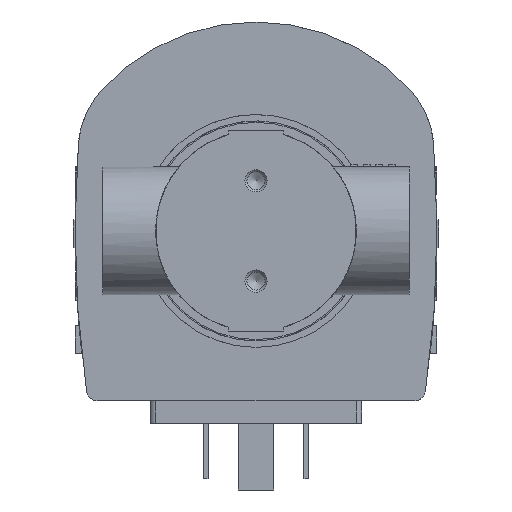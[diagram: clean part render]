
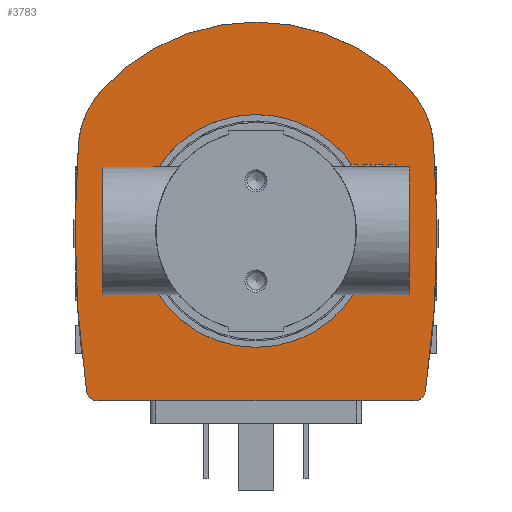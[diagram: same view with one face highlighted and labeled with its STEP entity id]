
A CAD part, front view. The second image highlights one B-rep face of the part: STEP entity #3783.
In plain terms, the highlighted planar face has unit normal (0, -1, 0).
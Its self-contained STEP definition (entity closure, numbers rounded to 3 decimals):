
#128=PLANE('',#4069);
#311=LINE('',#5409,#534);
#534=VECTOR('',#4557,1000.);
#1062=ORIENTED_EDGE('',*,*,#1622,.F.);
#1063=ORIENTED_EDGE('',*,*,#1606,.F.);
#1064=ORIENTED_EDGE('',*,*,#1621,.F.);
#1065=ORIENTED_EDGE('',*,*,#1626,.F.);
#1066=ORIENTED_EDGE('',*,*,#1616,.F.);
#1067=ORIENTED_EDGE('',*,*,#1587,.F.);
#1068=ORIENTED_EDGE('',*,*,#1623,.F.);
#1069=ORIENTED_EDGE('',*,*,#1564,.F.);
#1564=EDGE_CURVE('',#1888,#1889,#311,.T.);
#1587=EDGE_CURVE('',#1908,#1909,#2066,.T.);
#1606=EDGE_CURVE('',#1926,#1927,#2071,.T.);
#1616=EDGE_CURVE('',#1909,#1936,#2074,.T.);
#1621=EDGE_CURVE('',#1939,#1926,#2075,.T.);
#1622=EDGE_CURVE('',#1927,#1888,#2076,.T.);
#1623=EDGE_CURVE('',#1889,#1908,#2077,.T.);
#1626=EDGE_CURVE('',#1936,#1939,#2078,.T.);
#1888=VERTEX_POINT('',#5408);
#1889=VERTEX_POINT('',#5410);
#1908=VERTEX_POINT('',#5454);
#1909=VERTEX_POINT('',#5456);
#1926=VERTEX_POINT('',#5492);
#1927=VERTEX_POINT('',#5494);
#1936=VERTEX_POINT('',#5514);
#1939=VERTEX_POINT('',#5522);
#2066=CIRCLE('',#4039,200.1);
#2071=CIRCLE('',#4049,200.1);
#2074=CIRCLE('',#4055,16.);
#2075=CIRCLE('',#4059,16.);
#2076=CIRCLE('',#4061,2.);
#2077=CIRCLE('',#4063,2.);
#2078=CIRCLE('',#4068,37.5);
#2216=EDGE_LOOP('',(#1062,#1063,#1064,#1065,#1066,#1067,#1068,#1069));
#2430=FACE_BOUND('',#2216,.T.);
#3783=ADVANCED_FACE('',(#2430),#128,.F.);
#4039=AXIS2_PLACEMENT_3D('',#5455,#4598,#4599);
#4049=AXIS2_PLACEMENT_3D('',#5493,#4628,#4629);
#4055=AXIS2_PLACEMENT_3D('',#5513,#4645,#4646);
#4059=AXIS2_PLACEMENT_3D('',#5523,#4655,#4656);
#4061=AXIS2_PLACEMENT_3D('',#5525,#4659,#4660);
#4063=AXIS2_PLACEMENT_3D('',#5527,#4663,#4664);
#4068=AXIS2_PLACEMENT_3D('',#5532,#4673,#4674);
#4069=AXIS2_PLACEMENT_3D('',#5533,#4675,#4676);
#4557=DIRECTION('',(0.,0.,1.));
#4598=DIRECTION('',(0.,1.,0.));
#4599=DIRECTION('',(1.,0.,0.));
#4628=DIRECTION('',(0.,1.,0.));
#4629=DIRECTION('',(1.,0.,0.));
#4645=DIRECTION('',(0.,1.,0.));
#4646=DIRECTION('',(1.,0.,0.));
#4655=DIRECTION('',(0.,1.,0.));
#4656=DIRECTION('',(1.,0.,0.));
#4659=DIRECTION('',(0.,1.,0.));
#4660=DIRECTION('',(1.,0.,0.));
#4663=DIRECTION('',(0.,1.,0.));
#4664=DIRECTION('',(1.,0.,0.));
#4673=DIRECTION('',(0.,1.,0.));
#4674=DIRECTION('',(1.,0.,0.));
#4675=DIRECTION('',(0.,1.,0.));
#4676=DIRECTION('',(0.,0.,1.));
#5408=CARTESIAN_POINT('',(-30.5,-38.8,-28.424));
#5409=CARTESIAN_POINT('',(-30.5,-38.8,-28.424));
#5410=CARTESIAN_POINT('',(-30.5,-38.8,28.424));
#5454=CARTESIAN_POINT('',(-28.788,-38.8,30.403));
#5455=CARTESIAN_POINT('',(0.,-38.8,-167.615));
#5456=CARTESIAN_POINT('',(15.71,-38.8,31.867));
#5492=CARTESIAN_POINT('',(15.71,-38.8,-31.867));
#5493=CARTESIAN_POINT('',(0.,-38.8,167.615));
#5494=CARTESIAN_POINT('',(-28.788,-38.8,-30.403));
#5513=CARTESIAN_POINT('',(14.454,-38.8,15.917));
#5514=CARTESIAN_POINT('',(25.21,-38.8,27.762));
#5522=CARTESIAN_POINT('',(25.21,-38.8,-27.762));
#5523=CARTESIAN_POINT('',(14.454,-38.8,-15.917));
#5525=CARTESIAN_POINT('',(-28.5,-38.8,-28.424));
#5527=CARTESIAN_POINT('',(-28.5,-38.8,28.424));
#5532=CARTESIAN_POINT('',(0.,-38.8,0.));
#5533=CARTESIAN_POINT('',(-28.5,-38.8,-28.424));
